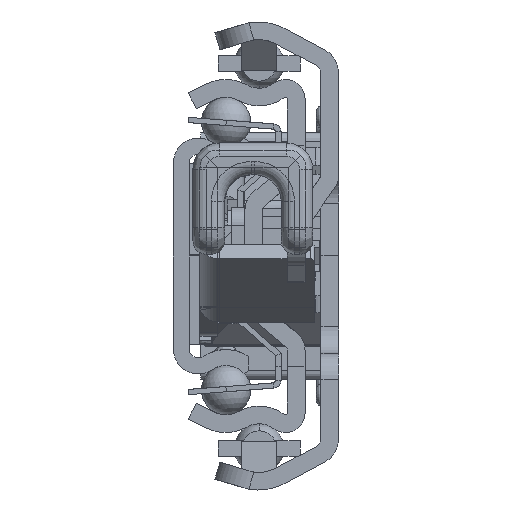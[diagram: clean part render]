
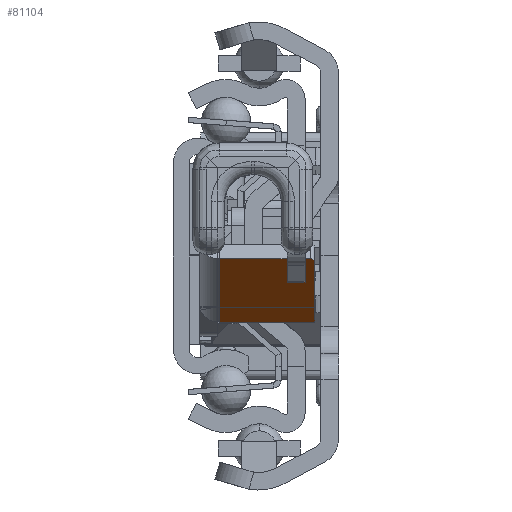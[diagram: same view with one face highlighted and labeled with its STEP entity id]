
A CAD part, left-side view. The second image highlights one B-rep face of the part: STEP entity #81104.
In plain terms, the highlighted planar face has unit normal (-0.597, 0, -0.802) as drawn and (-0.597, -0.802, 0) by its records, which use the part's own axes.
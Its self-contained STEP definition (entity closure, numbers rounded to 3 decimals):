
#80517=DIRECTION('',(0.802,-0.597,0.));
#80518=VECTOR('',#80517,12.);
#80519=CARTESIAN_POINT('',(31.957,-10.314,2.2));
#80520=LINE('',#80519,#80518);
#80545=CARTESIAN_POINT('',(32.358,-10.613,12.5));
#80546=DIRECTION('',(-0.597,-0.802,0.));
#80547=DIRECTION('',(0.,0.,1.));
#80548=AXIS2_PLACEMENT_3D('',#80545,#80546,#80547);
#80550=DIRECTION('',(-0.802,0.597,0.));
#80551=VECTOR('',#80550,11.5);
#80552=CARTESIAN_POINT('',(41.586,-17.476,13.));
#80553=LINE('',#80552,#80551);
#80554=DIRECTION('',(0.,0.,1.));
#80555=VECTOR('',#80554,10.8);
#80556=CARTESIAN_POINT('',(41.586,-17.476,2.2));
#80557=LINE('',#80556,#80555);
#80558=DIRECTION('',(0.,0.,-1.));
#80559=VECTOR('',#80558,10.3);
#80560=CARTESIAN_POINT('',(31.957,-10.314,12.5));
#80561=LINE('',#80560,#80559);
#80765=CARTESIAN_POINT('',(41.586,-17.476,2.2));
#80766=CARTESIAN_POINT('',(41.586,-17.476,13.));
#80767=VERTEX_POINT('',#80765);
#80768=VERTEX_POINT('',#80766);
#80769=CARTESIAN_POINT('',(31.957,-10.314,2.2));
#80770=VERTEX_POINT('',#80769);
#80801=CARTESIAN_POINT('',(32.358,-10.613,13.));
#80802=CARTESIAN_POINT('',(31.957,-10.314,12.5));
#80803=VERTEX_POINT('',#80801);
#80804=VERTEX_POINT('',#80802);
#81088=CARTESIAN_POINT('',(34.726,-12.374,0.));
#81089=DIRECTION('',(-0.597,-0.802,0.));
#81090=DIRECTION('',(0.802,-0.597,0.));
#81091=AXIS2_PLACEMENT_3D('',#81088,#81089,#81090);
#81092=PLANE('',#81091);
#81094=ORIENTED_EDGE('',*,*,#81093,.F.);
#81096=ORIENTED_EDGE('',*,*,#81095,.F.);
#81098=ORIENTED_EDGE('',*,*,#81097,.F.);
#81099=ORIENTED_EDGE('',*,*,#81075,.F.);
#81101=ORIENTED_EDGE('',*,*,#81100,.F.);
#81102=EDGE_LOOP('',(#81094,#81096,#81098,#81099,#81101));
#81103=FACE_OUTER_BOUND('',#81102,.F.);
#80549=CIRCLE('',#80548,0.5);
#81075=EDGE_CURVE('',#80770,#80767,#80520,.T.);
#81093=EDGE_CURVE('',#80803,#80804,#80549,.T.);
#81095=EDGE_CURVE('',#80768,#80803,#80553,.T.);
#81097=EDGE_CURVE('',#80767,#80768,#80557,.T.);
#81100=EDGE_CURVE('',#80804,#80770,#80561,.T.);
#81104=ADVANCED_FACE('',(#81103),#81092,.T.);
